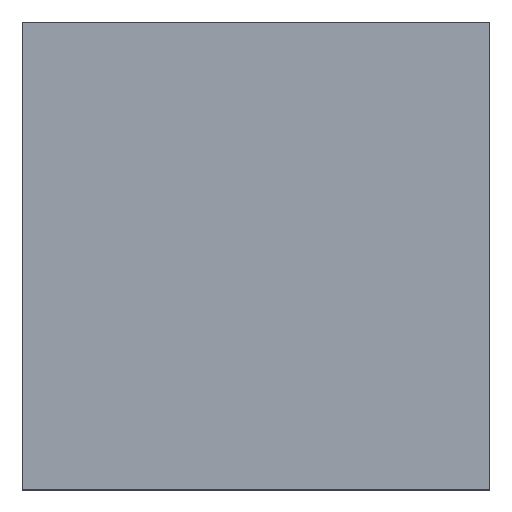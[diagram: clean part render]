
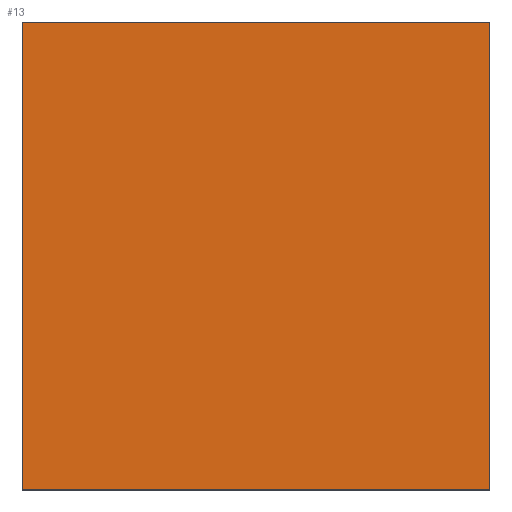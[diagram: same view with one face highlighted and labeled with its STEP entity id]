
A CAD part, top view. The second image highlights one B-rep face of the part: STEP entity #13.
In plain terms, the highlighted planar face has unit normal (0, 0, 1).
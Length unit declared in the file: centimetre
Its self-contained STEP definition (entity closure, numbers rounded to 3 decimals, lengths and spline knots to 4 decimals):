
#1 = EDGE_CURVE ( 'NONE', #110, #85, #438, .T. ) ;
#13 = ADVANCED_FACE ( 'NONE', ( #302 ), #484, .T. ) ;
#26 = DIRECTION ( 'NONE',  ( 1., 0., 0. ) ) ;
#32 = CARTESIAN_POINT ( 'NONE',  ( 1000., 1000., 1000. ) ) ;
#36 = DIRECTION ( 'NONE',  ( 1., 0., 0. ) ) ;
#38 = CARTESIAN_POINT ( 'NONE',  ( 0., 1000., 1000. ) ) ;
#66 = EDGE_CURVE ( 'NONE', #338, #110, #458, .T. ) ;
#68 = ORIENTED_EDGE ( 'NONE', *, *, #66, .T. ) ;
#70 = CARTESIAN_POINT ( 'NONE',  ( 0., 0., 1000. ) ) ;
#73 = AXIS2_PLACEMENT_3D ( 'NONE', #70, #442, #26 ) ;
#76 = LINE ( 'NONE', #38, #421 ) ;
#81 = CARTESIAN_POINT ( 'NONE',  ( 0., 0., 1000. ) ) ;
#85 = VERTEX_POINT ( 'NONE', #32 ) ;
#101 = DIRECTION ( 'NONE',  ( 0., 1., 0. ) ) ;
#109 = ORIENTED_EDGE ( 'NONE', *, *, #1, .T. ) ;
#110 = VERTEX_POINT ( 'NONE', #217 ) ;
#135 = VECTOR ( 'NONE', #36, 100. ) ;
#147 = VECTOR ( 'NONE', #518, 100. ) ;
#172 = EDGE_LOOP ( 'NONE', ( #288, #68, #109, #597 ) ) ;
#193 = VECTOR ( 'NONE', #101, 100. ) ;
#217 = CARTESIAN_POINT ( 'NONE',  ( 1000., 0., 1000. ) ) ;
#239 = VERTEX_POINT ( 'NONE', #550 ) ;
#249 = CARTESIAN_POINT ( 'NONE',  ( 1000., 1000., 1000. ) ) ;
#288 = ORIENTED_EDGE ( 'NONE', *, *, #384, .T. ) ;
#290 = LINE ( 'NONE', #301, #147 ) ;
#301 = CARTESIAN_POINT ( 'NONE',  ( 0., 1000., 1000. ) ) ;
#302 = FACE_OUTER_BOUND ( 'NONE', #172, .T. ) ;
#338 = VERTEX_POINT ( 'NONE', #441 ) ;
#363 = DIRECTION ( 'NONE',  ( -1., 0., 0. ) ) ;
#384 = EDGE_CURVE ( 'NONE', #239, #338, #290, .T. ) ;
#421 = VECTOR ( 'NONE', #363, 100. ) ;
#438 = LINE ( 'NONE', #249, #193 ) ;
#441 = CARTESIAN_POINT ( 'NONE',  ( 0., 0., 1000. ) ) ;
#442 = DIRECTION ( 'NONE',  ( 0., 0., 1. ) ) ;
#458 = LINE ( 'NONE', #81, #135 ) ;
#484 = PLANE ( 'NONE',  #73 ) ;
#516 = EDGE_CURVE ( 'NONE', #85, #239, #76, .T. ) ;
#518 = DIRECTION ( 'NONE',  ( 0., -1., 0. ) ) ;
#550 = CARTESIAN_POINT ( 'NONE',  ( 0., 1000., 1000. ) ) ;
#597 = ORIENTED_EDGE ( 'NONE', *, *, #516, .T. ) ;
